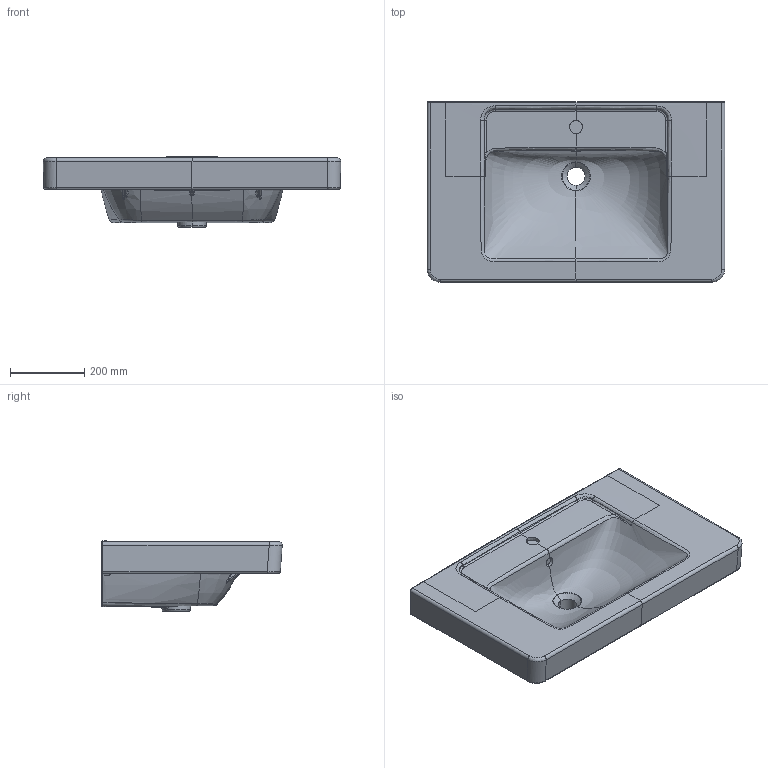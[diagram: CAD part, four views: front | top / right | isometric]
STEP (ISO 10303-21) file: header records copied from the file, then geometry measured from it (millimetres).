
FILE_DESCRIPTION(/* description */ (''),/* implementation_level */ '2;1');
FILE_NAME(/* name */ '611680_Subway_OA_SWT-80.stp',/* time_stamp */ '2018-11-12T07:24:30+01:00',/* author */ (''),/* organization */ (''),/* preprocessor_version */ 'ST-DEVELOPER v16',/* originating_system */ 'SIEMENS PLM Software NX 10.0',/* authorisation */ '');
FILE_SCHEMA (('AUTOMOTIVE_DESIGN { 1 0 10303 214 3 1 1 1 }'));
Length unit declared in the file: millimetre
Products named in the file (1): Sier2188F3872go1
Bounding box: 800 x 484.96 x 189 mm (x, y, z)
Volume: 32035643.3 mm3; surface area: 1170068.8 mm2
Topology: 1 solids, 1 shells, 225 faces, 560 edges, 328 vertices
Faces by surface type: bspline 148, cylinder 41, plane 22, extrusion 8, cone 4, torus 2
Entity records: 17442 total; most frequent: CARTESIAN_POINT 13377, ORIENTED_EDGE 1104, EDGE_CURVE 552, DIRECTION 480, VERTEX_POINT 328, B_SPLINE_CURVE_WITH_KNOTS 295, EDGE_LOOP 226, ADVANCED_FACE 225
